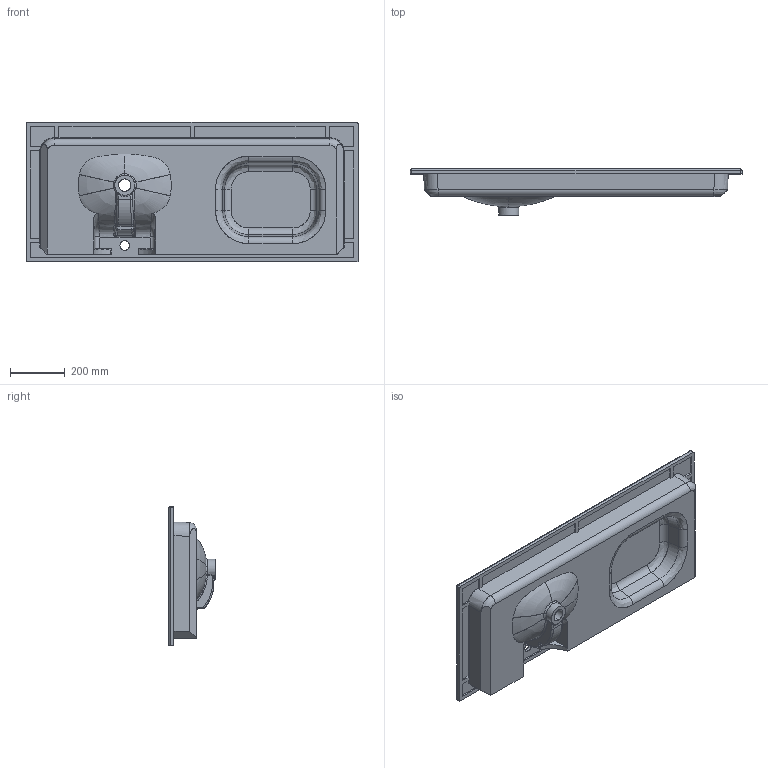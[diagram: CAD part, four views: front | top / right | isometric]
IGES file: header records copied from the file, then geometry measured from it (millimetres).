
Start section: SolidWorks IGES file using NURBS representation for surfaces
Global section: file name: C:\Users\User\Desktop\Soft\lavabi definitivi soft 51 m\121 sx\soft 1210 x 510 v sx art.SO121SX101.IGS; native system: SolidWorks 2016; preprocessor: SolidWorks 2016; author: User; date: 200630.083626; units: millimetre
Bounding box: 1210 x 168 x 510 mm (x, y, z)
Surface area: 1700732.9 mm2 (no closed solid volume)
Topology: 0 solids, 0 shells, 188 faces, 2423 edges, 2415 vertices
Faces by surface type: bspline 188
